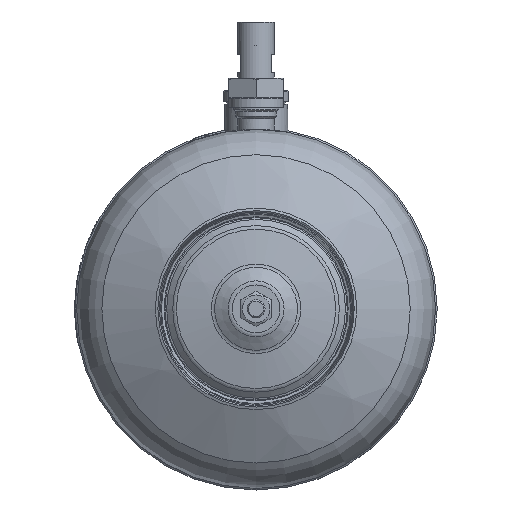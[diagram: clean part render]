
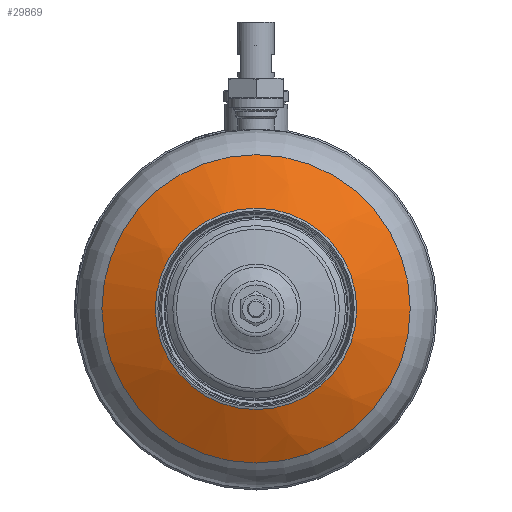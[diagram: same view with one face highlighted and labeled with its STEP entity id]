
A CAD part, front view. The second image highlights one B-rep face of the part: STEP entity #29869.
In plain terms, the highlighted spherical face has radius 159 mm.
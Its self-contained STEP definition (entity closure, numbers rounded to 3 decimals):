
#596=SPHERICAL_SURFACE('',#32279,159.);
#1389=FACE_BOUND('',#7014,.T.);
#5093=FACE_OUTER_BOUND('',#7013,.T.);
#7013=EDGE_LOOP('',(#27799));
#7014=EDGE_LOOP('',(#27800));
#11625=CIRCLE('',#31988,52.116);
#11751=CIRCLE('',#32278,85.047);
#14494=VERTEX_POINT('',#63188);
#14688=VERTEX_POINT('',#63860);
#18795=EDGE_CURVE('',#14494,#14494,#11625,.T.);
#19073=EDGE_CURVE('',#14688,#14688,#11751,.T.);
#27799=ORIENTED_EDGE('',*,*,#19073,.T.);
#27800=ORIENTED_EDGE('',*,*,#18795,.T.);
#29869=ADVANCED_FACE('',(#5093,#1389),#596,.T.);
#31988=AXIS2_PLACEMENT_3D('',#63189,#38184,#38185);
#32278=AXIS2_PLACEMENT_3D('',#63861,#38892,#38893);
#32279=AXIS2_PLACEMENT_3D('',#63862,#38894,#38895);
#38184=DIRECTION('center_axis',(0.,1.,0.));
#38185=DIRECTION('ref_axis',(0.,0.,-1.));
#38892=DIRECTION('center_axis',(0.,-1.,0.));
#38893=DIRECTION('ref_axis',(0.,0.,
-1.));
#38894=DIRECTION('center_axis',(1.,0.,0.));
#38895=DIRECTION('ref_axis',(0.,0.,1.));
#63188=CARTESIAN_POINT('',(0.,-188.856,-52.116));
#63189=CARTESIAN_POINT('Origin',(0.,-188.856,0.));
#63860=CARTESIAN_POINT('',(0.,-172.983,-85.047));
#63861=CARTESIAN_POINT('Origin',(0.,-172.983,
0.));
#63862=CARTESIAN_POINT('Origin',(0.,-38.64,0.));
